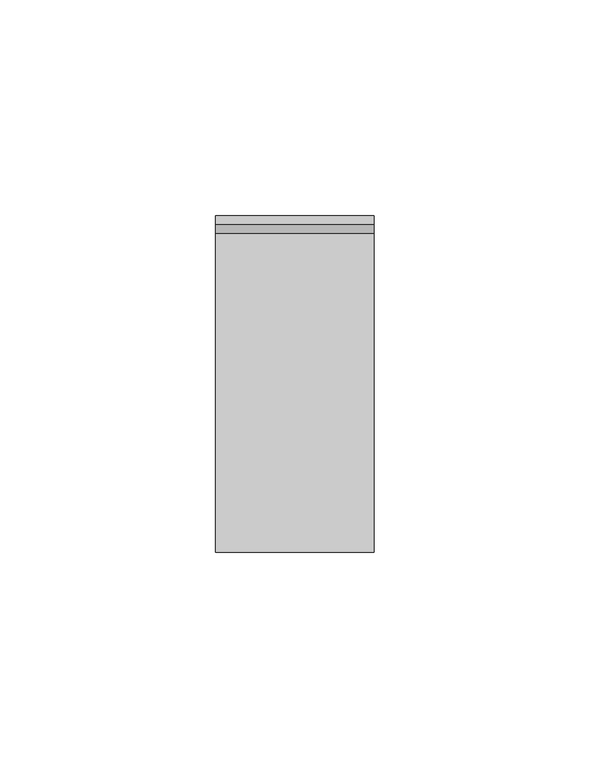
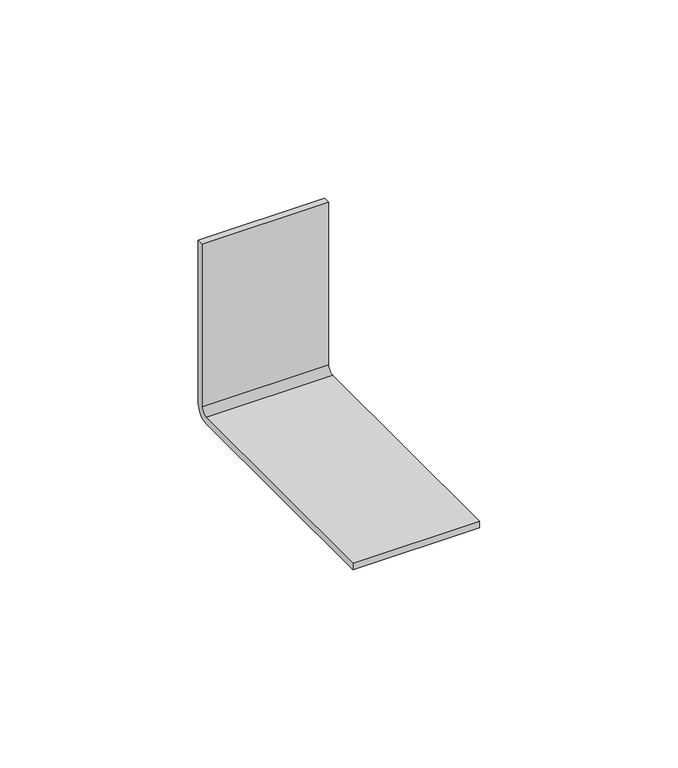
"""IFC4 building model written with IfcOpenShell, lengths in millimetres: proxy geometry, durlum_U1042 : durlum_U1042."""

from ifc_helpers import new_model, si_unit, point, frame, frame_2d, origin, place, context, project, spatial, polyline, circle_curve, trimmed, segment, composite_curve, outline, extrude, source, transform, mapped, element, save


def generic_models_9e18e937(model_context):
    return source(origin(), model_context, "Body", "SweptSolid", [
        extrude(outline(composite_curve([segment(polyline([(0.0, 54.0), (0.0, 4.0)]), True, "CONTINUOUS"), segment(trimmed(circle_curve(frame_2d((-4.0, 4.0)), 4.0), [point((0.0, 4.0))], [point((-4.0, 0.0))], False, "CARTESIAN"), True, "CONTINUOUS"), segment(polyline([(-4.0, 0.0), (-78.0, 0.0), (-78.0, 2.0), (-4.0, 2.0)]), True, "CONTINUOUS"), segment(trimmed(circle_curve(frame_2d((-4.0, 4.0)), 2.0), [point((-4.0, 2.0))], [point((-2.0, 4.0))], True, "CARTESIAN"), True, "CONTINUOUS"), segment(polyline([(-2.0, 4.0), (-2.0, 54.0), (0.0, 54.0)]), True, "CONTINUOUS")], self_intersect=False)), frame((-18.4, 0.0, 0.0), z_axis=(1.0, 0.0, 0.0), x_axis=(0.0, 1.0, 0.0)), (0.0, 0.0, 1.0), 36.8),
    ])


if __name__ == "__main__":
    model = new_model("IFC4")
    model_context = context("Model", 3, world=origin())
    ifc_project = project(units=[si_unit("LENGTHUNIT", "METRE", prefix="MILLI")], contexts=[model_context])
    site = spatial("IfcSite", under=ifc_project)
    building = spatial("IfcBuilding", under=site)
    placement = place(None, origin())
    generic_models_shape = generic_models_9e18e937(model_context)
    element("IfcBuildingElementProxy", 1, Name="durlum_U1042 : durlum_U1042", ObjectType="durlum_U1042 : durlum_U1042", at=placement, inside=building, context=model_context, shape_type="MappedRepresentation", body=[
        mapped(generic_models_shape, transform((0.0, 0.0, 0.0), x_axis=(1.0, 0.0, 0.0), y_axis=(0.0, 1.0, 0.0), z_axis=(0.0, 0.0, 1.0))),
    ])
    save(model, "model.ifc")
